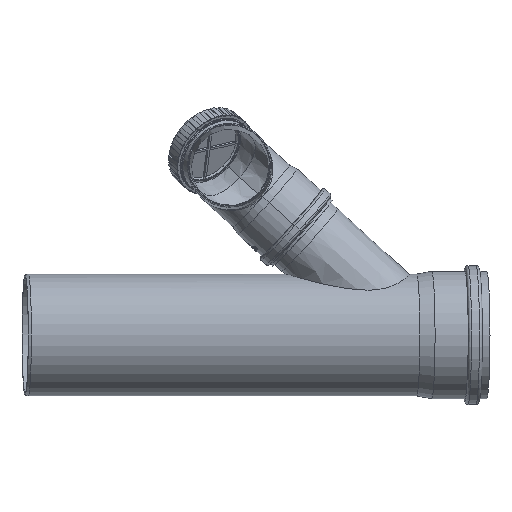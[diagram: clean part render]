
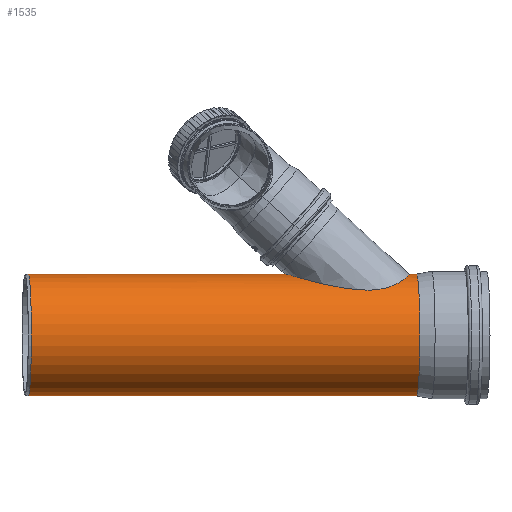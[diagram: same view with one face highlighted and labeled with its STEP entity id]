
A CAD part, front view. The second image highlights one B-rep face of the part: STEP entity #1535.
In plain terms, the highlighted cylindrical face has radius 80 mm (diameter 160 mm), a partial arc.
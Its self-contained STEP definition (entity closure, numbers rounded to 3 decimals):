
#727=CARTESIAN_POINT('',(80.,-22.983,0.));
#728=CARTESIAN_POINT('',(80.,-22.983,-3.444));
#729=CARTESIAN_POINT('',(79.56,-23.501,-10.262));
#730=CARTESIAN_POINT('',(77.602,-25.905,-20.281));
#731=CARTESIAN_POINT('',(74.575,-29.997,-29.438));
#732=CARTESIAN_POINT('',(70.96,-35.716,-37.223));
#733=CARTESIAN_POINT('',(67.297,-43.006,-43.413));
#734=CARTESIAN_POINT('',(64.087,-51.935,-47.956));
#735=CARTESIAN_POINT('',(61.827,-62.194,-50.789));
#736=CARTESIAN_POINT('',(60.73,-73.634,-52.076));
#737=CARTESIAN_POINT('',(60.774,-85.25,-52.025));
#738=CARTESIAN_POINT('',(61.667,-96.796,-50.974));
#739=CARTESIAN_POINT('',(63.127,-107.819,-49.167));
#740=CARTESIAN_POINT('',(64.848,-117.836,-46.88));
#741=CARTESIAN_POINT('',(66.648,-126.829,-44.29));
#742=CARTESIAN_POINT('',(68.447,-134.955,-41.46));
#743=CARTESIAN_POINT('',(70.198,-142.321,-38.426));
#744=CARTESIAN_POINT('',(71.888,-149.066,-35.169));
#745=CARTESIAN_POINT('',(73.499,-155.235,-31.67));
#746=CARTESIAN_POINT('',(74.952,-160.624,-28.059));
#747=CARTESIAN_POINT('',(76.229,-165.25,-24.376));
#748=CARTESIAN_POINT('',(77.363,-169.28,-20.513));
#749=CARTESIAN_POINT('',(78.394,-172.887,-16.177));
#750=CARTESIAN_POINT('',(79.262,-175.885,-11.268));
#751=CARTESIAN_POINT('',(79.86,-177.933,-5.747));
#752=CARTESIAN_POINT('',(80.,-178.409,-1.948));
#753=CARTESIAN_POINT('',(80.,-178.409,0.));
#758=CARTESIAN_POINT('',(0.,-521.,0.));
#759=DIRECTION('',(0.,1.,0.));
#760=DIRECTION('',(1.,0.,0.));
#761=AXIS2_PLACEMENT_3D('',#758,#759,#760);
#797=DIRECTION('',(0.,1.,0.));
#798=VECTOR('',#797,342.591);
#799=CARTESIAN_POINT('',(80.,-521.,0.));
#800=LINE('1107296408',#799,#798);
#812=DIRECTION('',(0.,1.,0.));
#813=VECTOR('',#812,510.795);
#814=CARTESIAN_POINT('',(-80.,-521.,0.));
#815=LINE('1107296308',#814,#813);
#819=DIRECTION('',(0.,1.,0.));
#820=VECTOR('',#819,12.779);
#821=CARTESIAN_POINT('',(80.,-22.983,0.));
#822=LINE('1107296409',#821,#820);
#848=CARTESIAN_POINT('',(0.,-10.205,0.));
#849=DIRECTION('',(0.,1.,0.));
#850=DIRECTION('',(1.,0.,0.));
#851=AXIS2_PLACEMENT_3D('',#848,#849,#850);
#1100=CARTESIAN_POINT('',(80.,-10.205,0.));
#1102=VERTEX_POINT('',#1100);
#1114=CARTESIAN_POINT('',(-80.,-10.205,0.));
#1116=VERTEX_POINT('',#1114);
#1184=CARTESIAN_POINT('',(80.,-521.,0.));
#1185=CARTESIAN_POINT('',(-80.,-521.,0.));
#1186=VERTEX_POINT('',#1184);
#1187=VERTEX_POINT('',#1185);
#1190=VERTEX_POINT('',#727);
#1191=VERTEX_POINT('',#753);
#1518=CARTESIAN_POINT('',(0.,-1054.101,0.));
#1519=DIRECTION('',(0.,1.,0.));
#1520=DIRECTION('',(1.,0.,0.));
#1521=AXIS2_PLACEMENT_3D('',#1518,#1519,#1520);
#1522=CYLINDRICAL_SURFACE('284',#1521,80.);
#1523=ORIENTED_EDGE('1107296403',*,*,#1466,.F.);
#1525=ORIENTED_EDGE('1107296409',*,*,#1524,.T.);
#1527=ORIENTED_EDGE('287',*,*,#1526,.T.);
#1529=ORIENTED_EDGE('1107296308',*,*,#1528,.F.);
#1530=ORIENTED_EDGE('1107296302',*,*,#1508,.F.);
#1532=ORIENTED_EDGE('1107296408',*,*,#1531,.T.);
#1533=EDGE_LOOP('284',(#1523,#1525,#1527,#1529,#1530,#1532));
#1534=FACE_OUTER_BOUND('284',#1533,.F.);
#754=B_SPLINE_CURVE_WITH_KNOTS('1107296403',3,(#727,#728,#729,#730,#731,#732,
#733,#734,#735,#736,#737,#738,#739,#740,#741,#742,#743,#744,#745,#746,#747,#748,
#749,#750,#751,#752,#753),.UNSPECIFIED.,.F.,.F.,(4,1,1,1,1,1,1,1,1,1,1,1,1,1,1,
1,1,1,1,1,1,1,1,1,4),(0.,0.042,0.083,0.125,
0.167,0.208,0.25,0.292,0.333,
0.375,0.417,0.458,0.5,0.542,
0.583,0.625,0.667,0.708,0.75,
0.792,0.833,0.875,0.917,0.958,
1.),.UNSPECIFIED.);
#762=CIRCLE('1107296302',#761,80.);
#852=CIRCLE('287',#851,80.);
#1466=EDGE_CURVE('1107296403',#1190,#1191,#754,.T.);
#1508=EDGE_CURVE('1107296302',#1186,#1187,#762,.T.);
#1524=EDGE_CURVE('1107296409',#1190,#1102,#822,.T.);
#1526=EDGE_CURVE('287',#1102,#1116,#852,.T.);
#1528=EDGE_CURVE('1107296308',#1187,#1116,#815,.T.);
#1531=EDGE_CURVE('1107296408',#1186,#1191,#800,.T.);
#1535=ADVANCED_FACE('284',(#1534),#1522,.T.);
